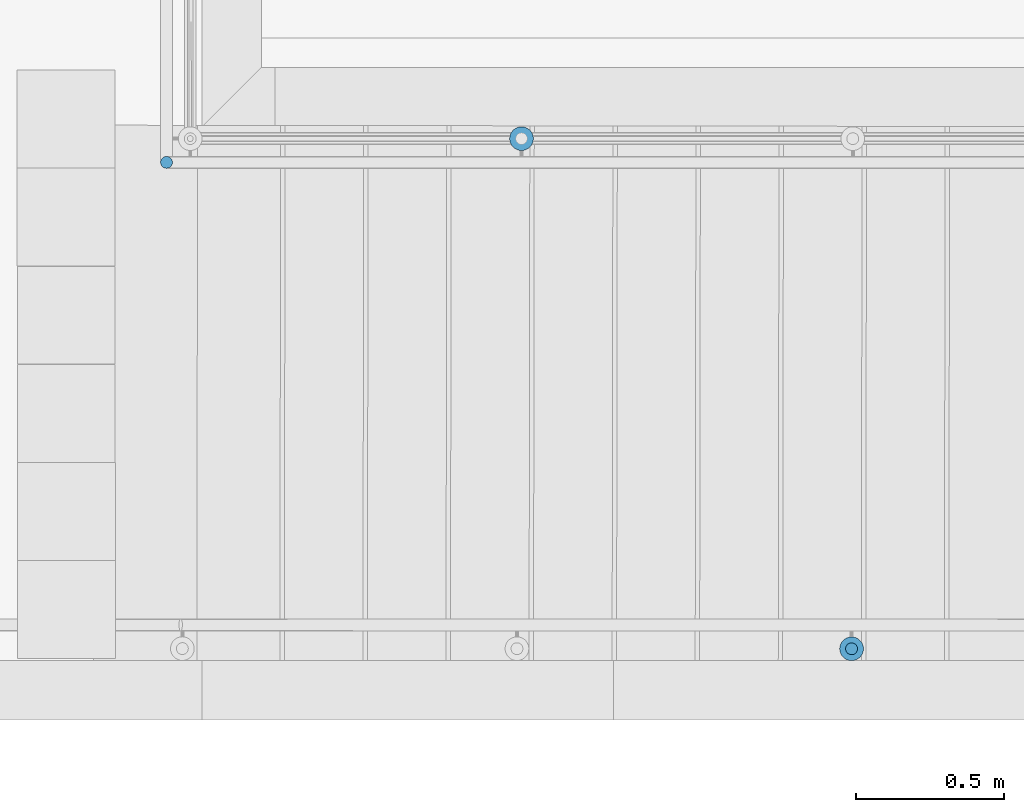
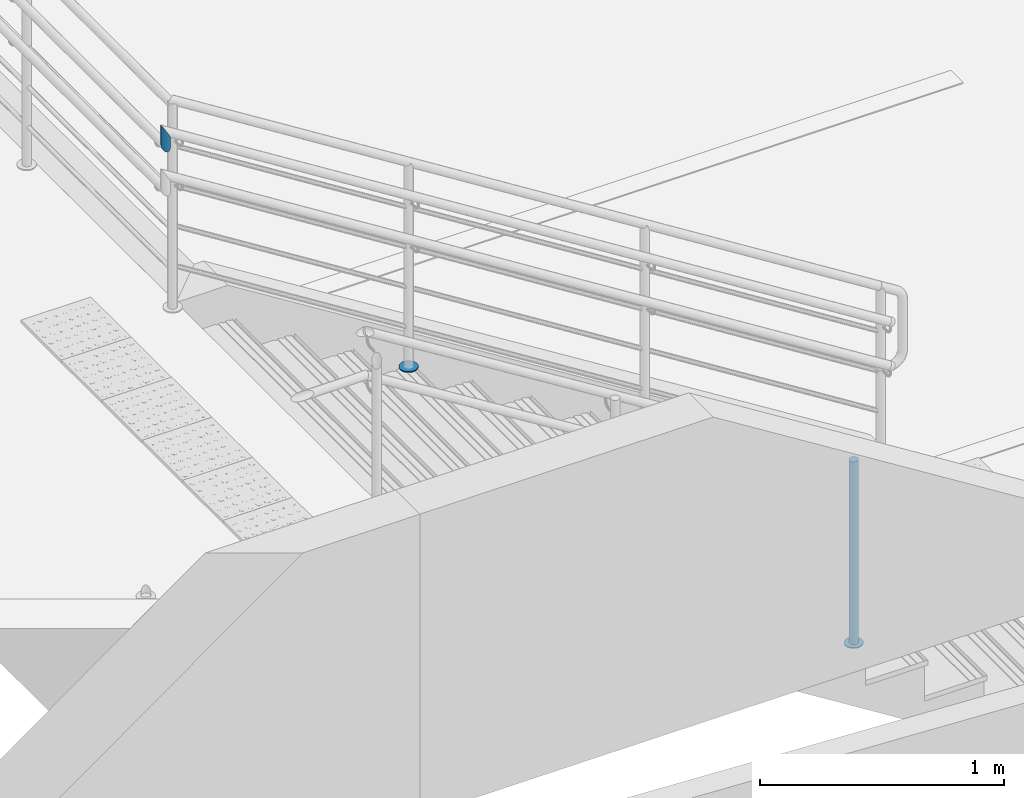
# One storey, part 132 of 237: 4 building element parts, 2 elements without a shape of their own.
"""IFC2X3 building model written with IfcOpenShell, lengths in millimetres."""

from ifc_helpers import new_model, entity, si_unit, converted_unit, derived_unit, money_unit, direction, frame, origin_with_axes, place, context, subcontext, project, spatial, faceted_brep, material, type_object, element, aggregate, save


model = new_model("IFC2X3")

# Units and contexts
model_context = context("Model", 3, precision=0.01, world=origin_with_axes(), true_north=direction((0.0, 1.0)))
body_context = subcontext(model_context, "Body", "Model", "MODEL_VIEW")
ifc_project = project(units=[si_unit("LENGTHUNIT", "METRE", prefix="MILLI"), si_unit("AREAUNIT", "SQUARE_METRE"), si_unit("VOLUMEUNIT", "CUBIC_METRE"), converted_unit("PLANEANGLEUNIT", "DEGREE", entity("IfcPlaneAngleMeasure", 0.0174532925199), si_unit("PLANEANGLEUNIT", "RADIAN"), dimensions=[0, 0, 0, 0, 0, 0, 0]), money_unit("USD"), converted_unit("TIMEUNIT", "Year", entity("IfcTimeMeasure", 31556926.0), si_unit("TIMEUNIT", "SECOND"), dimensions=[0, 0, 1, 0, 0, 0, 0]), si_unit("MASSUNIT", "GRAM", prefix="KILO"), si_unit("THERMODYNAMICTEMPERATUREUNIT", "DEGREE_CELSIUS"), si_unit("LUMINOUSINTENSITYUNIT", "LUMEN"), si_unit("ENERGYUNIT", "JOULE", prefix="MEGA"), derived_unit("THERMALCONDUCTANCEUNIT", [(si_unit("POWERUNIT", "WATT"), 1), (si_unit("LENGTHUNIT", "METRE"), -1), (si_unit("THERMODYNAMICTEMPERATUREUNIT", "KELVIN"), -1)]), derived_unit("SPECIFICHEATCAPACITYUNIT", [(si_unit("ENERGYUNIT", "JOULE"), 1), (si_unit("MASSUNIT", "GRAM", prefix="KILO"), -1), (si_unit("THERMODYNAMICTEMPERATUREUNIT", "KELVIN"), -1)]), derived_unit("MASSDENSITYUNIT", [(si_unit("MASSUNIT", "GRAM", prefix="KILO"), 1), (si_unit("VOLUMEUNIT", "CUBIC_METRE"), -1)])], contexts=[model_context])

# Site, building, storey
site_placement = place(None, origin_with_axes())
site = spatial("IfcSite", under=ifc_project, at=site_placement, Name="Local", CompositionType="ELEMENT")
building_placement = place(site_placement, origin_with_axes())
building = spatial("IfcBuilding", under=site, at=building_placement, Name="Construção", CompositionType="ELEMENT")
storey_placement = place(building_placement, origin_with_axes())
storey = spatial("IfcBuildingStorey", under=building, at=storey_placement, Name="Pavimento Térreo", CompositionType="ELEMENT", Elevation=0.0)

# Railing, building element parts
railing_type = type_object("IfcRailingType", Name="Tipo de Guarda-Corpo", PredefinedType="NOTDEFINED")
railing_1_placement = place(storey_placement, frame((88000.0, 12000.0, -7124.22292764), z_axis=(0.0, 0.0, 1.0), x_axis=(1.0, 0.0, 0.0)))
railing_1 = element("IfcRailing", 1, at=railing_1_placement, inside=storey, type_object=railing_type, Name="Guarda-Corpo - 003", PredefinedType="NOTDEFINED")
ifc_material_1 = material(Name="Aço - Inoxidável")
building_element_part_1_placement = place(railing_1_placement, origin_with_axes())
building_element_part_1 = element("IfcBuildingElementPart", 2, at=building_element_part_1_placement, material=ifc_material_1, Name="Aço - Inoxidável", context=body_context, shape_type="Brep", body=[
    faceted_brep([(14449.915599, 1015.15177492, 731.448187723), (14453.3884748, 1014.84692771, 731.448187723), (14453.3884748, 1014.84692771, 1646.44818772), (14449.915599, 1015.15177492, 1646.44818772), (14456.8615259, 1015.14977035, 731.448187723), (14446.5484203, 1016.05504936, 731.448187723), (14443.3892485, 1017.52930548, 731.448187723), (14440.5340735, 1019.52974877, 731.448187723), (14438.0696483, 1021.99559677, 731.448187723), (14436.0708534, 1024.85192592, 731.448187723), (14434.5984209, 1028.01194813, 731.448187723), (14433.6970902, 1031.3796477, 731.448187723), (14433.3942475, 1034.8526988, 731.448187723), (14433.6990947, 1038.32557452, 731.448187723), (14434.6023692, 1041.69275329, 731.448187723), (14436.0766253, 1044.85192509, 731.448187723), (14438.0770686, 1047.70710008, 731.448187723), (14440.5429166, 1050.17152522, 731.448187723), (14443.3992457, 1052.17032019, 731.448187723), (14446.5592679, 1053.64275262, 731.448187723), (14449.9269675, 1054.5440834, 731.448187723), (14453.4000186, 1054.84692604, 731.448187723), (14456.8728943, 1054.54207883, 731.448187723), (14460.2400731, 1053.6388044, 731.448187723), (14463.3992449, 1052.16454827, 731.448187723), (14466.2544199, 1050.16410498, 731.448187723), (14468.718845, 1047.69825699, 731.448187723), (14470.71764, 1044.84192783, 731.448187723), (14472.1900724, 1041.68190563, 731.448187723), (14473.0914032, 1038.31420605, 731.448187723), (14473.3942459, 1034.84115495, 731.448187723), (14473.0893986, 1031.36827923, 731.448187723), (14472.1861242, 1028.00110046, 731.448187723), (14470.7118681, 1024.84192866, 731.448187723), (14468.7114248, 1021.98675367, 731.448187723), (14466.2455768, 1019.52232853, 731.448187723), (14463.3892476, 1017.52353356, 731.448187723), (14460.2292254, 1016.05110113, 731.448187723), (14456.8615259, 1015.14977035, 1646.44818772), (14433.6990947, 1038.32557452, 1646.44818772), (14433.3942475, 1034.8526988, 1646.44818772), (14433.6970902, 1031.3796477, 1646.44818772), (14434.5984209, 1028.01194813, 1646.44818772), (14436.0708534, 1024.85192592, 1646.44818772), (14438.0696483, 1021.99559677, 1646.44818772), (14440.5340735, 1019.52974877, 1646.44818772), (14443.3892485, 1017.52930548, 1646.44818772), (14446.5484203, 1016.05504936, 1646.44818772), (14460.2292254, 1016.05110113, 1646.44818772), (14463.3892476, 1017.52353356, 1646.44818772), (14466.2455768, 1019.52232853, 1646.44818772), (14468.7114248, 1021.98675367, 1646.44818772), (14470.7118681, 1024.84192866, 1646.44818772), (14472.1861242, 1028.00110046, 1646.44818772), (14473.0893986, 1031.36827923, 1646.44818772), (14473.3942459, 1034.84115495, 1646.44818772), (14473.0914032, 1038.31420605, 1646.44818772), (14472.1900724, 1041.68190563, 1646.44818772), (14470.71764, 1044.84192783, 1646.44818772), (14468.718845, 1047.69825699, 1646.44818772), (14466.2544199, 1050.16410498, 1646.44818772), (14463.3992449, 1052.16454827, 1646.44818772), (14460.2400731, 1053.6388044, 1646.44818772), (14456.8728943, 1054.54207883, 1646.44818772), (14453.4000186, 1054.84692604, 1646.44818772), (14449.9269675, 1054.5440834, 1646.44818772), (14446.5592679, 1053.64275262, 1646.44818772), (14443.3992457, 1052.17032019, 1646.44818772), (14440.5429166, 1050.17152522, 1646.44818772), (14438.0770686, 1047.70710008, 1646.44818772), (14436.0766253, 1044.85192509, 1646.44818772), (14434.6023692, 1041.69275329, 1646.44818772)], [[[0, 1, 2, 3]], [[4, 1, 0, 5, 6, 7, 8, 9, 10, 11, 12, 13, 14, 15, 16, 17, 18, 19, 20, 21, 22, 23, 24, 25, 26, 27, 28, 29, 30, 31, 32, 33, 34, 35, 36, 37]], [[1, 4, 38, 2]], [[39, 40, 41, 42, 43, 44, 45, 46, 47, 3, 2, 38, 48, 49, 50, 51, 52, 53, 54, 55, 56, 57, 58, 59, 60, 61, 62, 63, 64, 65, 66, 67, 68, 69, 70, 71]], [[5, 0, 3, 47]], [[6, 5, 47, 46]], [[7, 6, 46, 45]], [[8, 7, 45, 44]], [[9, 8, 44, 43]], [[10, 9, 43, 42]], [[11, 10, 42, 41]], [[12, 11, 41, 40]], [[13, 12, 40, 39]], [[14, 13, 39, 71]], [[15, 14, 71, 70]], [[16, 15, 70, 69]], [[17, 16, 69, 68]], [[18, 17, 68, 67]], [[19, 18, 67, 66]], [[20, 19, 66, 65]], [[21, 20, 65, 64]], [[22, 21, 64, 63]], [[23, 22, 63, 62]], [[24, 23, 62, 61]], [[25, 24, 61, 60]], [[26, 25, 60, 59]], [[27, 26, 59, 58]], [[28, 27, 58, 57]], [[29, 28, 57, 56]], [[30, 29, 56, 55]], [[31, 30, 55, 54]], [[32, 31, 54, 53]], [[33, 32, 53, 52]], [[34, 33, 52, 51]], [[35, 34, 51, 50]], [[36, 35, 50, 49]], [[37, 36, 49, 48]], [[4, 37, 48, 38]]]),
])
ifc_material_2 = material(Name="Alumínio")
building_element_part_2_placement = place(railing_1_placement, origin_with_axes())
building_element_part_2 = element("IfcBuildingElementPart", 3, at=building_element_part_2_placement, material=ifc_material_2, Name="Alumínio", context=body_context, shape_type="Brep", body=[
    faceted_brep([(14493.394245, 1034.83538303, 726.448187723), (14492.7885597, 1041.78148523, 726.448187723), (14492.7885597, 1041.78148523, 731.448187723), (14493.394245, 1034.83538303, 731.448187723), (14492.7845506, 1027.88963159, 726.448187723), (14490.9780017, 1021.15527405, 726.448187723), (14488.0294895, 1014.83693045, 726.448187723), (14484.0286029, 1009.12658046, 726.448187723), (14479.0969069, 1004.19773019, 726.448187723), (14473.3842486, 1000.20014025, 726.448187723), (14467.0642042, 997.255275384, 726.448187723), (14460.328805, 995.452613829, 726.448187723), (14453.3827028, 994.846928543, 726.448187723), (14446.4369514, 995.456622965, 726.448187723), (14439.7025939, 997.263171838, 726.448187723), (14433.3842503, 1000.21168409, 726.448187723), (14427.6739003, 1004.21257067, 726.448187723), (14422.74505, 1009.14426666, 726.448187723), (14418.7474601, 1014.85692497, 726.448187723), (14415.8025952, 1021.17696938, 726.448187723), (14413.9999336, 1027.91236853, 726.448187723), (14413.3942484, 1034.85847072, 726.448187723), (14414.0039428, 1041.80422216, 726.448187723), (14415.8104916, 1048.53857971, 726.448187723), (14418.7590039, 1054.85692331, 726.448187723), (14422.7598905, 1060.56727329, 726.448187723), (14427.6915865, 1065.49612357, 726.448187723), (14433.4042448, 1069.49371351, 726.448187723), (14439.7242892, 1072.43857837, 726.448187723), (14446.4596883, 1074.24123992, 726.448187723), (14453.4057905, 1074.84692521, 726.448187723), (14460.351542, 1074.23723079, 726.448187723), (14467.0858995, 1072.43068192, 726.448187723), (14473.4042431, 1069.48216966, 726.448187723), (14479.1145931, 1065.48128309, 726.448187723), (14484.0434434, 1060.5495871, 726.448187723), (14488.0410333, 1054.83692878, 726.448187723), (14490.9858982, 1048.51688437, 726.448187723), (14490.9858982, 1048.51688437, 731.448187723), (14488.0410333, 1054.83692878, 731.448187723), (14484.0434434, 1060.5495871, 731.448187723), (14479.1145931, 1065.48128309, 731.448187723), (14473.4042431, 1069.48216966, 731.448187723), (14467.0858995, 1072.43068192, 731.448187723), (14460.351542, 1074.23723079, 731.448187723), (14453.4057905, 1074.84692521, 731.448187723), (14446.4596883, 1074.24123992, 731.448187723), (14439.7242892, 1072.43857837, 731.448187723), (14433.4042448, 1069.49371351, 731.448187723), (14427.6915865, 1065.49612357, 731.448187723), (14422.7598905, 1060.56727329, 731.448187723), (14418.7590039, 1054.85692331, 731.448187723), (14415.8104916, 1048.53857971, 731.448187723), (14414.0039428, 1041.80422216, 731.448187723), (14413.3942484, 1034.85847072, 731.448187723), (14413.9999336, 1027.91236853, 731.448187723), (14415.8025952, 1021.17696938, 731.448187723), (14418.7474601, 1014.85692497, 731.448187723), (14422.74505, 1009.14426666, 731.448187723), (14427.6739003, 1004.21257067, 731.448187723), (14433.3842503, 1000.21168409, 731.448187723), (14439.7025939, 997.263171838, 731.448187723), (14446.4369514, 995.456622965, 731.448187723), (14453.3827028, 994.846928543, 731.448187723), (14460.328805, 995.452613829, 731.448187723), (14467.0642042, 997.255275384, 731.448187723), (14473.3842486, 1000.20014025, 731.448187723), (14479.0969069, 1004.19773019, 731.448187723), (14484.0286029, 1009.12658046, 731.448187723), (14488.0294895, 1014.83693045, 731.448187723), (14490.9780017, 1021.15527405, 731.448187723), (14492.7845506, 1027.88963159, 731.448187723)], [[[0, 1, 2, 3]], [[0, 4, 5, 6, 7, 8, 9, 10, 11, 12, 13, 14, 15, 16, 17, 18, 19, 20, 21, 22, 23, 24, 25, 26, 27, 28, 29, 30, 31, 32, 33, 34, 35, 36, 37, 1]], [[1, 37, 38, 2]], [[3, 2, 38, 39, 40, 41, 42, 43, 44, 45, 46, 47, 48, 49, 50, 51, 52, 53, 54, 55, 56, 57, 58, 59, 60, 61, 62, 63, 64, 65, 66, 67, 68, 69, 70, 71]], [[4, 0, 3, 71]], [[5, 4, 71, 70]], [[6, 5, 70, 69]], [[7, 6, 69, 68]], [[8, 7, 68, 67]], [[9, 8, 67, 66]], [[10, 9, 66, 65]], [[11, 10, 65, 64]], [[12, 11, 64, 63]], [[13, 12, 63, 62]], [[14, 13, 62, 61]], [[15, 14, 61, 60]], [[16, 15, 60, 59]], [[17, 16, 59, 58]], [[18, 17, 58, 57]], [[19, 18, 57, 56]], [[20, 19, 56, 55]], [[21, 20, 55, 54]], [[22, 21, 54, 53]], [[23, 22, 53, 52]], [[24, 23, 52, 51]], [[25, 24, 51, 50]], [[26, 25, 50, 49]], [[27, 26, 49, 48]], [[28, 27, 48, 47]], [[29, 28, 47, 46]], [[30, 29, 46, 45]], [[31, 30, 45, 44]], [[32, 31, 44, 43]], [[33, 32, 43, 42]], [[34, 33, 42, 41]], [[35, 34, 41, 40]], [[36, 35, 40, 39]], [[37, 36, 39, 38]]]),
])
aggregate(railing_1, [building_element_part_1, building_element_part_2])

railing_2_placement = place(storey_placement, frame((104000.0, 14000.0, -7099.22292764), z_axis=(0.0, 0.0, 1.0), x_axis=(1.0, 0.0, 0.0)))
railing_2 = element("IfcRailing", 4, at=railing_2_placement, inside=storey, type_object=railing_type, Name="Guarda-Corpo - 001", PredefinedType="NOTDEFINED")
building_element_part_3_placement = place(railing_2_placement, origin_with_axes())
building_element_part_3 = element("IfcBuildingElementPart", 5, at=building_element_part_3_placement, material=ifc_material_1, Name="Aço - Inoxidável", context=body_context, shape_type="Brep", body=[
    faceted_brep([(-3852.42318918, 694.193142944, 3024.31151876), (-3855.89615492, 694.496962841, 3024.61538462), (-3855.89615492, 694.496962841, 3076.38249624), (-3852.42318918, 694.193142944, 3070.09927383), (-3859.36911629, 694.193092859, 3024.31156059), (-3849.05574336, 693.29086458, 3023.40919583), (-3845.8961356, 691.817543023, 3021.93583246), (-3843.04036899, 689.817944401, 3019.93619604), (-3840.57521455, 687.352825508, 3017.47104453), (-3838.57557474, 684.497087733, 3014.61528029), (-3837.10220762, 681.337501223, 3011.45567428), (-3836.1998807, 677.970068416, 3008.08822953), (-3835.89601071, 674.497107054, 3004.61526415), (-3836.19983061, 671.024141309, 3001.14230243), (-3837.10210897, 667.65669549, 2997.77486855), (-3838.57543053, 664.497087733, 2994.61528029), (-3840.57502915, 661.641321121, 2991.75954014), (-3843.04014805, 659.176166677, 2989.29441832), (-3845.89588582, 657.176526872, 2987.29481631), (-3849.05547233, 655.70315975, 2985.821491), (-3852.42290514, 654.800832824, 2984.91920864), (-3855.8958665, 654.496962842, 2984.61538462), (-3859.36883224, 654.80078274, 2984.91925047), (-3862.73627806, 655.703061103, 2985.8215734), (-3865.89588582, 657.17638266, 2987.29493677), (-3868.75165243, 659.175981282, 2989.29457319), (-3871.21680688, 661.641100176, 2991.7597247), (-3873.21644668, 664.496837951, 2994.61548894), (-3874.6898138, 667.65642446, 2997.77509495), (-3875.59214073, 671.023857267, 3001.1425397), (-3875.89601071, 674.49681863, 3004.61550508), (-3875.59219081, 677.969784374, 3008.08846681), (-3874.68991245, 681.337230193, 3011.45590068), (-3873.21659089, 684.49683795, 3014.61548894), (-3871.21699227, 687.352604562, 3017.47122909), (-3868.75187338, 689.817759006, 3019.93635091), (-3865.8961356, 691.817398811, 3021.93595292), (-3862.73654909, 693.290765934, 3023.40927823), (-3859.36911629, 694.193092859, 3082.66571865), (-3865.89588582, 657.17638266, 3094.47431412), (-3862.73627806, 655.703061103, 3088.75802853), (-3859.36883224, 654.80078274, 3082.66571865), (-3855.8958665, 654.496962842, 3076.38249624), (-3852.42290514, 654.800832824, 3070.09927383), (-3849.05547233, 655.70315975, 3064.00696396), (-3845.89588582, 657.176526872, 3058.29067836), (-3843.04014805, 659.176166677, 3053.12410351), (-3840.57502915, 661.641321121, 3048.66422314), (-3838.57543053, 664.497087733, 3045.04654848), (-3837.10210897, 667.65669549, 3042.38100073), (-3836.19983061, 671.02414131, 3040.74857122), (-3835.89601071, 674.497107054, 3040.19886049), (-3836.1998807, 677.970068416, 3040.74857122), (-3837.10220762, 681.337501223, 3042.38100073), (-3838.57557474, 684.497087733, 3045.04654848), (-3840.57521455, 687.352825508, 3048.66422314), (-3843.04036899, 689.817944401, 3053.12410351), (-3845.8961356, 691.817543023, 3058.29067836), (-3849.05574336, 693.29086458, 3064.00696396), (-3862.73654909, 693.290765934, 3088.75802853), (-3865.8961356, 691.817398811, 3094.47431412), (-3868.75187338, 689.817759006, 3099.64088898), (-3871.21699227, 687.352604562, 3104.10076935), (-3873.21659089, 684.49683795, 3107.71844401), (-3874.68991245, 681.337230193, 3110.38399176), (-3875.59219081, 677.969784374, 3112.01642127), (-3875.89601071, 674.49681863, 3112.566132), (-3875.59214073, 671.023857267, 3112.01642127), (-3874.6898138, 667.65642446, 3110.38399176), (-3873.21644668, 664.496837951, 3107.71844401), (-3871.21680688, 661.641100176, 3104.10076935), (-3868.75165243, 659.175981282, 3099.64088898)], [[[0, 1, 2, 3]], [[4, 1, 0, 5, 6, 7, 8, 9, 10, 11, 12, 13, 14, 15, 16, 17, 18, 19, 20, 21, 22, 23, 24, 25, 26, 27, 28, 29, 30, 31, 32, 33, 34, 35, 36, 37]], [[1, 4, 38, 2]], [[39, 40, 41, 42, 43, 44, 45, 46, 47, 48, 49, 50, 51, 52, 53, 54, 55, 56, 57, 58, 3, 2, 38, 59, 60, 61, 62, 63, 64, 65, 66, 67, 68, 69, 70, 71]], [[5, 0, 3, 58]], [[6, 5, 58, 57]], [[7, 6, 57, 56]], [[8, 7, 56, 55]], [[9, 8, 55, 54]], [[10, 9, 54, 53]], [[11, 10, 53, 52]], [[12, 11, 52, 51]], [[13, 12, 51, 50]], [[14, 13, 50, 49]], [[15, 14, 49, 48]], [[16, 15, 48, 47]], [[17, 16, 47, 46]], [[18, 17, 46, 45]], [[19, 18, 45, 44]], [[20, 19, 44, 43]], [[21, 20, 43, 42]], [[22, 21, 42, 41]], [[23, 22, 41, 40]], [[24, 23, 40, 39]], [[25, 24, 39, 71]], [[26, 25, 71, 70]], [[27, 26, 70, 69]], [[28, 27, 69, 68]], [[29, 28, 68, 67]], [[30, 29, 67, 66]], [[31, 30, 66, 65]], [[32, 31, 65, 64]], [[33, 32, 64, 63]], [[34, 33, 63, 62]], [[35, 34, 62, 61]], [[36, 35, 61, 60]], [[37, 36, 60, 59]], [[4, 37, 59, 38]]]),
])
building_element_part_4_placement = place(railing_2_placement, origin_with_axes())
building_element_part_4 = element("IfcBuildingElementPart", 6, at=building_element_part_4_placement, material=ifc_material_2, Name="Alumínio", context=body_context, shape_type="Brep", body=[
    faceted_brep([(-2699.19398961, 754.505303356, 1428.20573687), (-2698.58624964, 747.559380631, 1428.20573687), (-2698.58624964, 747.559380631, 1433.20573687), (-2699.19398961, 754.505303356, 1433.20573687), (-2698.58634981, 761.451234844, 1428.20573687), (-2696.78179309, 768.186126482, 1428.20573687), (-2693.83514997, 774.505341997, 1428.20573687), (-2689.83595273, 780.216875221, 1428.20573687), (-2684.90571494, 785.147184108, 1428.20573687), (-2679.19423939, 789.146463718, 1428.20573687), (-2672.87506637, 792.093197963, 1428.20573687), (-2666.14020076, 793.897851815, 1428.20573687), (-2659.19427803, 794.505591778, 1428.20573687), (-2652.24834654, 793.897951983, 1428.20573687), (-2645.51345491, 792.093395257, 1428.20573687), (-2639.19423939, 789.146752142, 1428.20573687), (-2633.48270617, 785.147554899, 1428.20573687), (-2628.55239728, 780.217317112, 1428.20573687), (-2624.55311767, 774.505841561, 1428.20573687), (-2621.60638343, 768.186668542, 1428.20573687), (-2619.80172957, 761.451802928, 1428.20573687), (-2619.19398961, 754.505880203, 1428.20573687), (-2619.80162941, 747.559948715, 1428.20573687), (-2621.60618613, 740.825057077, 1428.20573687), (-2624.55282925, 734.505841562, 1428.20573687), (-2628.55202649, 728.794308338, 1428.20573687), (-2633.48226428, 723.863999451, 1428.20573687), (-2639.19373983, 719.864719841, 1428.20573687), (-2645.51291285, 716.917985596, 1428.20573687), (-2652.24777846, 715.113331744, 1428.20573687), (-2659.19370119, 714.505591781, 1428.20573687), (-2666.13963267, 715.113231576, 1428.20573687), (-2672.87452431, 716.917788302, 1428.20573687), (-2679.19373983, 719.864431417, 1428.20573687), (-2684.90527305, 723.86362866, 1428.20573687), (-2689.83558194, 728.793866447, 1428.20573687), (-2693.83486155, 734.505341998, 1428.20573687), (-2696.78159579, 740.824515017, 1428.20573687), (-2696.78159579, 740.824515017, 1433.20573687), (-2693.83486155, 734.505341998, 1433.20573687), (-2689.83558194, 728.793866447, 1433.20573687), (-2684.90527305, 723.86362866, 1433.20573687), (-2679.19373983, 719.864431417, 1433.20573687), (-2672.87452431, 716.917788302, 1433.20573687), (-2666.13963267, 715.113231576, 1433.20573687), (-2659.19370119, 714.505591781, 1433.20573687), (-2652.24777846, 715.113331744, 1433.20573687), (-2645.51291285, 716.917985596, 1433.20573687), (-2639.19373983, 719.864719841, 1433.20573687), (-2633.48226428, 723.863999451, 1433.20573687), (-2628.55202649, 728.794308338, 1433.20573687), (-2624.55282925, 734.505841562, 1433.20573687), (-2621.60618613, 740.825057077, 1433.20573687), (-2619.80162941, 747.559948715, 1433.20573687), (-2619.19398961, 754.505880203, 1433.20573687), (-2619.80172957, 761.451802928, 1433.20573687), (-2621.60638343, 768.186668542, 1433.20573687), (-2624.55311767, 774.505841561, 1433.20573687), (-2628.55239728, 780.217317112, 1433.20573687), (-2633.48270617, 785.147554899, 1433.20573687), (-2639.19423939, 789.146752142, 1433.20573687), (-2645.51345491, 792.093395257, 1433.20573687), (-2652.24834654, 793.897951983, 1433.20573687), (-2659.19427803, 794.505591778, 1433.20573687), (-2666.14020076, 793.897851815, 1433.20573687), (-2672.87506637, 792.093197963, 1433.20573687), (-2679.19423939, 789.146463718, 1433.20573687), (-2684.90571494, 785.147184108, 1433.20573687), (-2689.83595273, 780.216875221, 1433.20573687), (-2693.83514997, 774.505341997, 1433.20573687), (-2696.78179309, 768.186126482, 1433.20573687), (-2698.58634981, 761.451234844, 1433.20573687)], [[[0, 1, 2, 3]], [[0, 4, 5, 6, 7, 8, 9, 10, 11, 12, 13, 14, 15, 16, 17, 18, 19, 20, 21, 22, 23, 24, 25, 26, 27, 28, 29, 30, 31, 32, 33, 34, 35, 36, 37, 1]], [[1, 37, 38, 2]], [[3, 2, 38, 39, 40, 41, 42, 43, 44, 45, 46, 47, 48, 49, 50, 51, 52, 53, 54, 55, 56, 57, 58, 59, 60, 61, 62, 63, 64, 65, 66, 67, 68, 69, 70, 71]], [[4, 0, 3, 71]], [[5, 4, 71, 70]], [[6, 5, 70, 69]], [[7, 6, 69, 68]], [[8, 7, 68, 67]], [[9, 8, 67, 66]], [[10, 9, 66, 65]], [[11, 10, 65, 64]], [[12, 11, 64, 63]], [[13, 12, 63, 62]], [[14, 13, 62, 61]], [[15, 14, 61, 60]], [[16, 15, 60, 59]], [[17, 16, 59, 58]], [[18, 17, 58, 57]], [[19, 18, 57, 56]], [[20, 19, 56, 55]], [[21, 20, 55, 54]], [[22, 21, 54, 53]], [[23, 22, 53, 52]], [[24, 23, 52, 51]], [[25, 24, 51, 50]], [[26, 25, 50, 49]], [[27, 26, 49, 48]], [[28, 27, 48, 47]], [[29, 28, 47, 46]], [[30, 29, 46, 45]], [[31, 30, 45, 44]], [[32, 31, 44, 43]], [[33, 32, 43, 42]], [[34, 33, 42, 41]], [[35, 34, 41, 40]], [[36, 35, 40, 39]], [[37, 36, 39, 38]]]),
])
aggregate(railing_2, [building_element_part_3, building_element_part_4])

save(model, "model.ifc")
